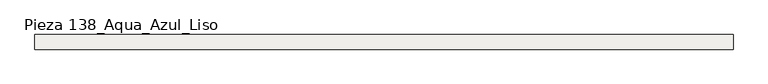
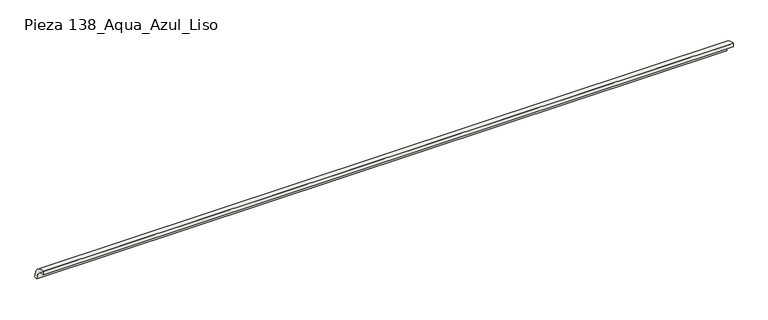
"""IFC4 building model written with IfcOpenShell, lengths in millimetres: slab geometry, ROSA GRES_138 : Pieza 138_Aqua_Azul_Liso."""

from ifc_helpers import new_model, si_unit, point, frame, frame_2d, origin, origin_2d, place, context, project, spatial, polyline, circle_curve, trimmed, segment, composite_curve, outline, extrude, source, transform, mapped, element, save


def pieza_138_aqua_azul_liso_aaa424cb(model_context):
    return source(origin(), model_context, "Body", "SweptSolid", [
        extrude(outline(composite_curve([segment(trimmed(circle_curve(origin_2d(), 40.0), [point((0.0, 40.0))], [point((40.0, 0.0))], False, "CARTESIAN"), True, "CONTINUOUS"), segment(polyline([(40.0, 0.0), (30.0265886, 0.0)]), True, "CONTINUOUS"), segment(trimmed(circle_curve(frame_2d((0.0044453, 0.0044453)), 30.0221435), [point((30.0265886, 0.0))], [point((0.0, 30.0265886))], True, "CARTESIAN"), True, "CONTINUOUS"), segment(polyline([(0.0, 30.0265886), (0.0, 40.0)]), True, "CONTINUOUS")], self_intersect=False)), frame((0.0, 0.0, 0.0), z_axis=(1.0, 0.0, 0.0), x_axis=(0.0, 1.0, 0.0)), (0.0, 0.0, 1.0), 1904.2453177),
    ])


if __name__ == "__main__":
    model = new_model("IFC4")
    model_context = context("Model", 3, world=origin())
    ifc_project = project(units=[si_unit("LENGTHUNIT", "METRE", prefix="MILLI")], contexts=[model_context])
    site = spatial("IfcSite", under=ifc_project)
    building = spatial("IfcBuilding", under=site)
    placement = place(None, origin())
    pieza_138_aqua_azul_liso_shape = pieza_138_aqua_azul_liso_aaa424cb(model_context)
    element("IfcSlab", 1, ObjectType="ROSA GRES_138 : Pieza 138_Aqua_Azul_Liso", at=placement, inside=building, context=model_context, shape_type="MappedRepresentation", body=[
        mapped(pieza_138_aqua_azul_liso_shape, transform((0.0, 0.0, 0.0), x_axis=(1.0, 0.0, 0.0), y_axis=(0.0, 1.0, 0.0), z_axis=(0.0, 0.0, 1.0))),
    ])
    save(model, "model.ifc")
